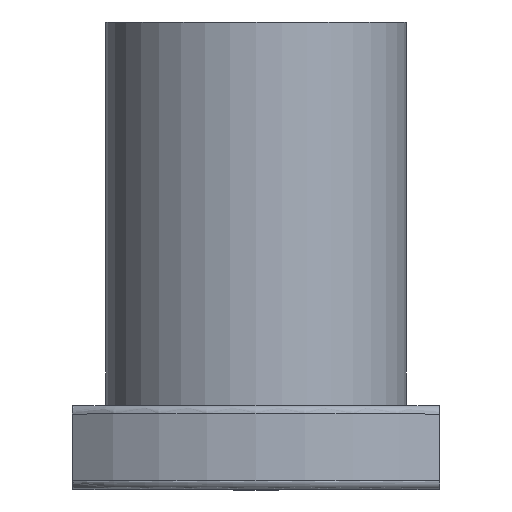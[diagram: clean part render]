
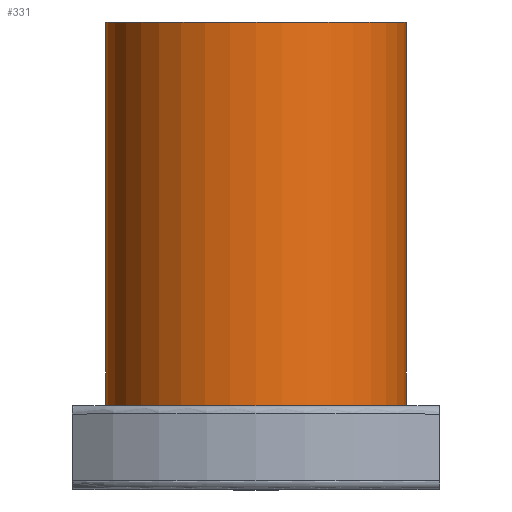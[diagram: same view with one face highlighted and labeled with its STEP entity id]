
A CAD part, top view. The second image highlights one B-rep face of the part: STEP entity #331.
In plain terms, the highlighted cylindrical face has radius 9 mm (diameter 18 mm), a full revolution.
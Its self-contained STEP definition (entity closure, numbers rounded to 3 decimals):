
#32=CIRCLE('',#372,9.);
#42=CIRCLE('',#384,9.);
#50=CYLINDRICAL_SURFACE('',#383,9.);
#108=ORIENTED_EDGE('',*,*,#170,.F.);
#109=ORIENTED_EDGE('',*,*,#180,.F.);
#170=EDGE_CURVE('',#206,#206,#32,.F.);
#180=EDGE_CURVE('',#212,#212,#42,.T.);
#206=VERTEX_POINT('',#823);
#212=VERTEX_POINT('',#841);
#250=EDGE_LOOP('',(#108));
#251=EDGE_LOOP('',(#109));
#292=FACE_BOUND('',#250,.T.);
#293=FACE_BOUND('',#251,.T.);
#331=ADVANCED_FACE('',(#292,#293),#50,.T.);
#372=AXIS2_PLACEMENT_3D('',#822,#440,#441);
#383=AXIS2_PLACEMENT_3D('',#839,#462,#463);
#384=AXIS2_PLACEMENT_3D('',#840,#464,#465);
#440=DIRECTION('',(0.,1.,0.));
#441=DIRECTION('',(0.,0.,1.));
#462=DIRECTION('',(0.,-1.,0.));
#463=DIRECTION('',(0.,0.,-1.));
#464=DIRECTION('',(0.,1.,0.));
#465=DIRECTION('',(1.,0.,0.));
#822=CARTESIAN_POINT('',(0.,5.,0.));
#823=CARTESIAN_POINT('',(0.,5.,9.));
#839=CARTESIAN_POINT('',(0.,28.,0.));
#840=CARTESIAN_POINT('',(0.,28.,0.));
#841=CARTESIAN_POINT('',(9.,28.,0.));
